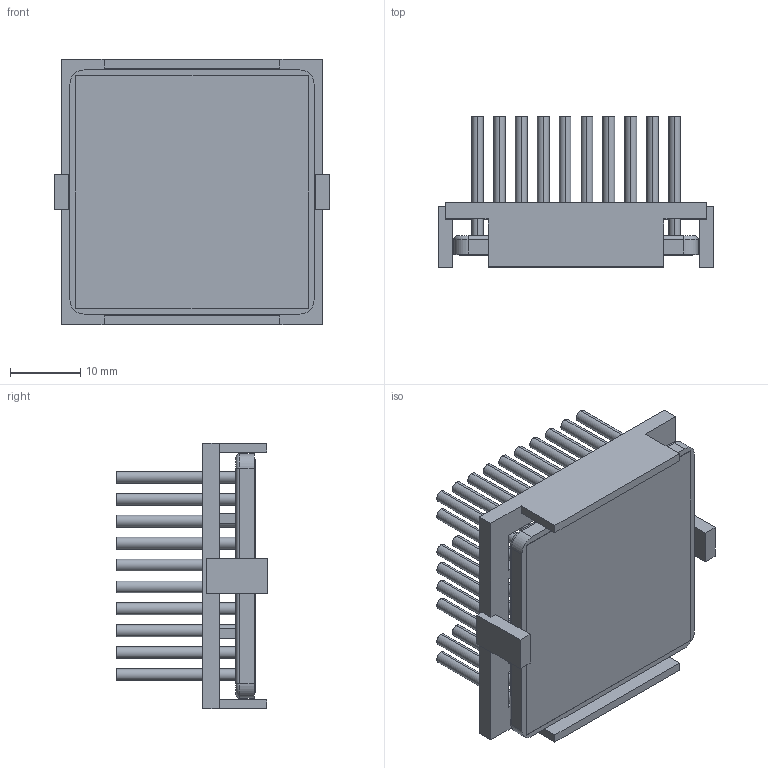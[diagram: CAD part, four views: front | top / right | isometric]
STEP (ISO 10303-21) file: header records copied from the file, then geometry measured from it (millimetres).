
FILE_DESCRIPTION (( 'STEP AP214' ), '1' );
FILE_NAME ('INM35002-20P-2.6BU.STEP', '2023-02-21T00:01:24', ( '' ), ( '' ), 'SwSTEP 2.0', 'SolidWorks 2020', '' );
FILE_SCHEMA (( 'AUTOMOTIVE_DESIGN' ));
Length unit declared in the file: inch
Products named in the file (1): INM35002-20P-2.6BU
Bounding box: 39.2 x 21.5 x 37.7 mm (x, y, z)
Volume: 8519.3 mm3; surface area: 15923.7 mm2
Topology: 3 solids, 3 shells, 354 faces, 760 edges, 504 vertices
Faces by surface type: cylinder 192, plane 158, torus 4
Entity records: 14416 total; most frequent: DIRECTION 1858, CARTESIAN_POINT 1619, ORIENTED_EDGE 1520, EDGE_CURVE 760, AXIS2_PLACEMENT_3D 743, VERTEX_POINT 504, EDGE_LOOP 448, CIRCLE 388
